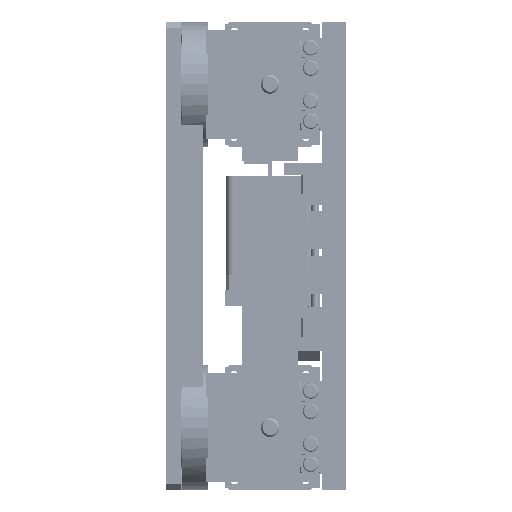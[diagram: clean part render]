
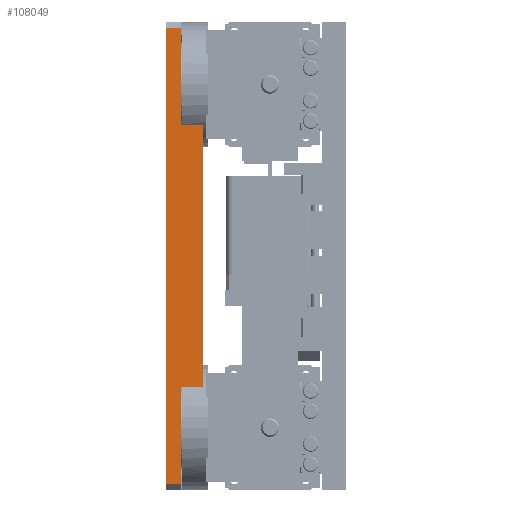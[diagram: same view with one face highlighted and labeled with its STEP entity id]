
A CAD part, left-side view. The second image highlights one B-rep face of the part: STEP entity #108049.
In plain terms, the highlighted planar face has unit normal (-1, 0, 0).
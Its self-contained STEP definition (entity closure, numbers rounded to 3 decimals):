
#2355 = CARTESIAN_POINT ( 'NONE',  ( -75., 53., -42. ) ) ;
#4543 = VERTEX_POINT ( 'NONE', #22462 ) ;
#4797 = AXIS2_PLACEMENT_3D ( 'NONE', #157675, #19653, #92234 ) ;
#7909 = CARTESIAN_POINT ( 'NONE',  ( -75., 53., -73. ) ) ;
#10041 = CARTESIAN_POINT ( 'NONE',  ( -75., 46., -73. ) ) ;
#10939 = CARTESIAN_POINT ( 'NONE',  ( -75., 53., 73. ) ) ;
#13955 = ORIENTED_EDGE ( 'NONE', *, *, #176436, .F. ) ;
#14397 = VECTOR ( 'NONE', #179717, 1000. ) ;
#19374 = VERTEX_POINT ( 'NONE', #2355 ) ;
#19653 = DIRECTION ( 'NONE',  ( 1., 0., 0. ) ) ;
#21130 = VECTOR ( 'NONE', #45431, 1000. ) ;
#22130 = ORIENTED_EDGE ( 'NONE', *, *, #62147, .T. ) ;
#22462 = CARTESIAN_POINT ( 'NONE',  ( -75., 53., 42. ) ) ;
#23535 = ORIENTED_EDGE ( 'NONE', *, *, #90085, .F. ) ;
#25655 = ORIENTED_EDGE ( 'NONE', *, *, #178506, .F. ) ;
#33838 = DIRECTION ( 'NONE',  ( 0., -1., 0. ) ) ;
#37136 = DIRECTION ( 'NONE',  ( 0., 0., -1. ) ) ;
#39087 = LINE ( 'NONE', #10939, #149466 ) ;
#45431 = DIRECTION ( 'NONE',  ( 0., -1., 0. ) ) ;
#48641 = VERTEX_POINT ( 'NONE', #76100 ) ;
#49053 = CARTESIAN_POINT ( 'NONE',  ( -75., 46., 42. ) ) ;
#61548 = VERTEX_POINT ( 'NONE', #85497 ) ;
#62147 = EDGE_CURVE ( 'NONE', #48641, #177023, #175018, .T. ) ;
#62755 = LINE ( 'NONE', #10041, #144626 ) ;
#63505 = LINE ( 'NONE', #147902, #94665 ) ;
#64463 = LINE ( 'NONE', #95316, #14397 ) ;
#69868 = CARTESIAN_POINT ( 'NONE',  ( -75., 46., -42. ) ) ;
#70903 = CARTESIAN_POINT ( 'NONE',  ( -75., 46., 42. ) ) ;
#72305 = EDGE_LOOP ( 'NONE', ( #103182, #22130, #155060, #25655, #13955, #73170, #23535, #101201 ) ) ;
#73170 = ORIENTED_EDGE ( 'NONE', *, *, #112952, .F. ) ;
#76100 = CARTESIAN_POINT ( 'NONE',  ( -75., 58., 73. ) ) ;
#78956 = VERTEX_POINT ( 'NONE', #7909 ) ;
#83145 = LINE ( 'NONE', #127561, #166154 ) ;
#85497 = CARTESIAN_POINT ( 'NONE',  ( -75., 53., 73. ) ) ;
#90085 = EDGE_CURVE ( 'NONE', #4543, #94444, #165348, .T. ) ;
#90456 = PLANE ( 'NONE',  #4797 ) ;
#92234 = DIRECTION ( 'NONE',  ( 0., 0., 1. ) ) ;
#94444 = VERTEX_POINT ( 'NONE', #49053 ) ;
#94665 = VECTOR ( 'NONE', #37136, 1000. ) ;
#95316 = CARTESIAN_POINT ( 'NONE',  ( -75., 46., 73. ) ) ;
#95867 = DIRECTION ( 'NONE',  ( 0., 1., 0. ) ) ;
#98279 = EDGE_CURVE ( 'NONE', #78956, #177023, #62755, .T. ) ;
#101201 = ORIENTED_EDGE ( 'NONE', *, *, #139056, .F. ) ;
#102431 = VECTOR ( 'NONE', #174127, 1000. ) ;
#102886 = LINE ( 'NONE', #158236, #124751 ) ;
#103182 = ORIENTED_EDGE ( 'NONE', *, *, #121415, .F. ) ;
#108049 = ADVANCED_FACE ( 'NONE', ( #130404 ), #90456, .F. ) ;
#112952 = EDGE_CURVE ( 'NONE', #94444, #132731, #64463, .T. ) ;
#118118 = DIRECTION ( 'NONE',  ( 0., 1., 0. ) ) ;
#121415 = EDGE_CURVE ( 'NONE', #48641, #61548, #102886, .T. ) ;
#124751 = VECTOR ( 'NONE', #33838, 1000. ) ;
#127561 = CARTESIAN_POINT ( 'NONE',  ( -75., 46., -42. ) ) ;
#130404 = FACE_OUTER_BOUND ( 'NONE', #72305, .T. ) ;
#132731 = VERTEX_POINT ( 'NONE', #69868 ) ;
#133252 = CARTESIAN_POINT ( 'NONE',  ( -75., 58., 0. ) ) ;
#139056 = EDGE_CURVE ( 'NONE', #61548, #4543, #39087, .T. ) ;
#144626 = VECTOR ( 'NONE', #118118, 1000. ) ;
#147902 = CARTESIAN_POINT ( 'NONE',  ( -75., 53., 73. ) ) ;
#149466 = VECTOR ( 'NONE', #177993, 1000. ) ;
#155060 = ORIENTED_EDGE ( 'NONE', *, *, #98279, .F. ) ;
#157675 = CARTESIAN_POINT ( 'NONE',  ( -75., 46., 73. ) ) ;
#158236 = CARTESIAN_POINT ( 'NONE',  ( -75., 46., 73. ) ) ;
#159040 = CARTESIAN_POINT ( 'NONE',  ( -75., 58., -73. ) ) ;
#165348 = LINE ( 'NONE', #70903, #21130 ) ;
#166154 = VECTOR ( 'NONE', #95867, 1000. ) ;
#174127 = DIRECTION ( 'NONE',  ( 0., 0., -1. ) ) ;
#175018 = LINE ( 'NONE', #133252, #102431 ) ;
#176436 = EDGE_CURVE ( 'NONE', #132731, #19374, #83145, .T. ) ;
#177023 = VERTEX_POINT ( 'NONE', #159040 ) ;
#177993 = DIRECTION ( 'NONE',  ( 0., 0., -1. ) ) ;
#178506 = EDGE_CURVE ( 'NONE', #19374, #78956, #63505, .T. ) ;
#179717 = DIRECTION ( 'NONE',  ( 0., 0., -1. ) ) ;
